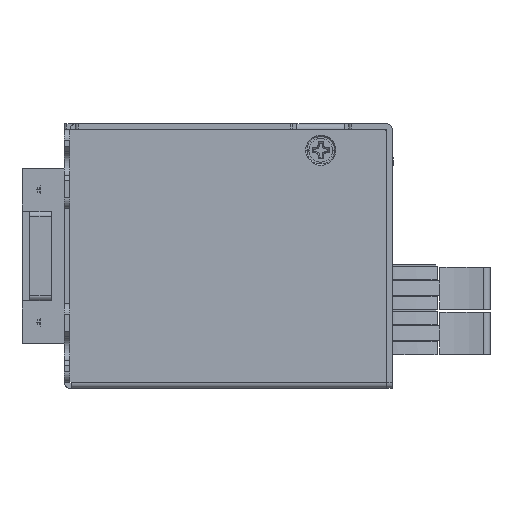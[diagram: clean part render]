
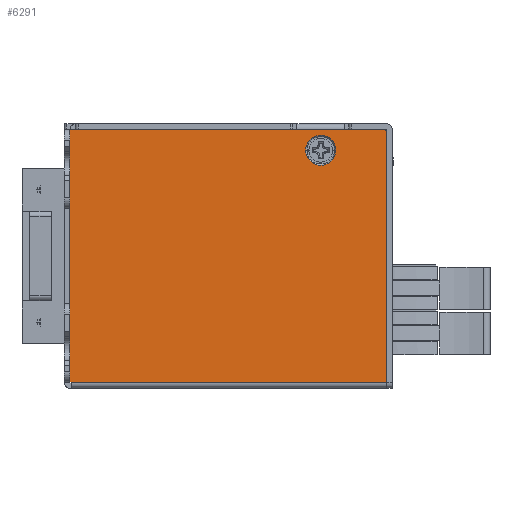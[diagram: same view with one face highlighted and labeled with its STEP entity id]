
A CAD part, left-side view. The second image highlights one B-rep face of the part: STEP entity #6291.
In plain terms, the highlighted planar face has unit normal (-1, 0, 0).
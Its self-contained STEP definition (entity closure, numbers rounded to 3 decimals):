
#818=DIRECTION('',(0.,0.,-1.));
#819=VECTOR('',#818,47.4);
#820=CARTESIAN_POINT('',(-69.,0.05,48.4));
#821=LINE('',#820,#819);
#857=DIRECTION('',(0.,0.,1.));
#858=VECTOR('',#857,0.1);
#859=CARTESIAN_POINT('',(-69.,59.65,1.));
#860=LINE('',#859,#858);
#866=CARTESIAN_POINT('',(-69.,0.55,48.4));
#867=DIRECTION('',(-1.,0.,0.));
#868=DIRECTION('',(0.,-1.,0.));
#869=AXIS2_PLACEMENT_3D('',#866,#867,#868);
#871=CARTESIAN_POINT('',(-69.,12.5,45.));
#872=DIRECTION('',(1.,0.,0.));
#873=DIRECTION('',(0.,-1.,0.));
#874=AXIS2_PLACEMENT_3D('',#871,#872,#873);
#876=CARTESIAN_POINT('',(-69.,12.5,45.));
#877=DIRECTION('',(1.,0.,0.));
#878=DIRECTION('',(0.,1.,0.));
#879=AXIS2_PLACEMENT_3D('',#876,#877,#878);
#881=DIRECTION('',(0.,-1.,0.));
#882=VECTOR('',#881,0.3);
#883=CARTESIAN_POINT('',(-69.,59.95,1.1));
#884=LINE('',#883,#882);
#905=DIRECTION('',(0.,0.,1.));
#906=VECTOR('',#905,47.8);
#907=CARTESIAN_POINT('',(-69.,59.95,1.1));
#908=LINE('',#907,#906);
#909=DIRECTION('',(0.,-1.,0.));
#910=VECTOR('',#909,59.4);
#911=CARTESIAN_POINT('',(-69.,59.95,48.9));
#912=LINE('',#911,#910);
#917=DIRECTION('',(0.,1.,0.));
#918=VECTOR('',#917,59.6);
#919=CARTESIAN_POINT('',(-69.,0.05,1.));
#920=LINE('',#919,#918);
#4409=CARTESIAN_POINT('',(-69.,15.35,45.));
#4410=CARTESIAN_POINT('',(-69.,9.65,45.));
#4411=VERTEX_POINT('',#4409);
#4412=VERTEX_POINT('',#4410);
#4413=CARTESIAN_POINT('',(-69.,59.65,1.));
#4414=CARTESIAN_POINT('',(-69.,59.65,1.1));
#4415=VERTEX_POINT('',#4413);
#4416=VERTEX_POINT('',#4414);
#4417=CARTESIAN_POINT('',(-69.,59.95,1.1));
#4418=VERTEX_POINT('',#4417);
#4419=CARTESIAN_POINT('',(-69.,59.95,48.9));
#4420=VERTEX_POINT('',#4419);
#4421=CARTESIAN_POINT('',(-69.,0.55,48.9));
#4422=VERTEX_POINT('',#4421);
#4423=CARTESIAN_POINT('',(-69.,0.05,48.4));
#4424=VERTEX_POINT('',#4423);
#4425=CARTESIAN_POINT('',(-69.,0.05,1.));
#4426=VERTEX_POINT('',#4425);
#6267=CARTESIAN_POINT('',(-69.,30.,24.95));
#6268=DIRECTION('',(1.,0.,0.));
#6269=DIRECTION('',(0.,-1.,0.));
#6270=AXIS2_PLACEMENT_3D('',#6267,#6268,#6269);
#6271=PLANE('',#6270);
#6272=ORIENTED_EDGE('',*,*,#6249,.T.);
#6274=ORIENTED_EDGE('',*,*,#6273,.F.);
#6276=ORIENTED_EDGE('',*,*,#6275,.T.);
#6278=ORIENTED_EDGE('',*,*,#6277,.T.);
#6279=ORIENTED_EDGE('',*,*,#6198,.F.);
#6280=ORIENTED_EDGE('',*,*,#6178,.T.);
#6282=ORIENTED_EDGE('',*,*,#6281,.T.);
#6283=EDGE_LOOP('',(#6272,#6274,#6276,#6278,#6279,#6280,#6282));
#6284=FACE_OUTER_BOUND('',#6283,.F.);
#6286=ORIENTED_EDGE('',*,*,#6285,.F.);
#6288=ORIENTED_EDGE('',*,*,#6287,.F.);
#6289=EDGE_LOOP('',(#6286,#6288));
#6290=FACE_BOUND('',#6289,.F.);
#6291=ADVANCED_FACE('',(#6284,#6290),#6271,.F.);
#870=CIRCLE('',#869,0.5);
#875=CIRCLE('',#874,2.85);
#880=CIRCLE('',#879,2.85);
#6178=EDGE_CURVE('',#4424,#4426,#821,.T.);
#6198=EDGE_CURVE('',#4424,#4422,#870,.T.);
#6249=EDGE_CURVE('',#4415,#4416,#860,.T.);
#6273=EDGE_CURVE('',#4418,#4416,#884,.T.);
#6275=EDGE_CURVE('',#4418,#4420,#908,.T.);
#6277=EDGE_CURVE('',#4420,#4422,#912,.T.);
#6281=EDGE_CURVE('',#4426,#4415,#920,.T.);
#6285=EDGE_CURVE('',#4412,#4411,#875,.T.);
#6287=EDGE_CURVE('',#4411,#4412,#880,.T.);
